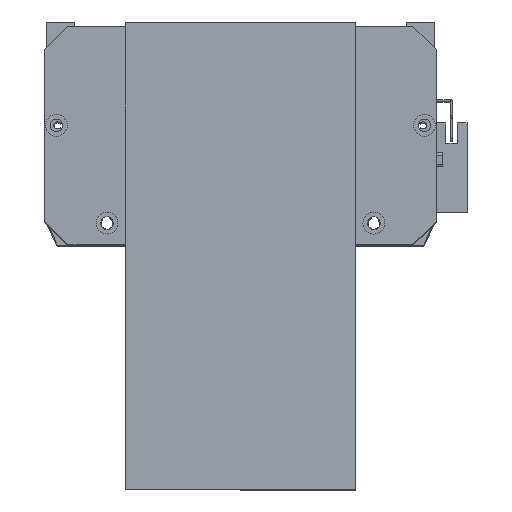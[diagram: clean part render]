
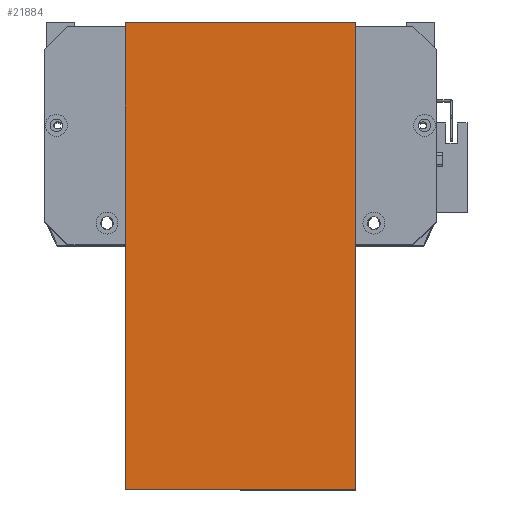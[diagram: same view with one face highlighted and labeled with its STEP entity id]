
A CAD part, top view. The second image highlights one B-rep face of the part: STEP entity #21884.
In plain terms, the highlighted planar face has unit normal (0, 0, 1) as drawn and (0, 0, -1) by its records, which use the part's own axes.
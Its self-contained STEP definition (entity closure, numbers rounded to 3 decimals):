
#528 = EDGE_CURVE ( 'NONE', #23143, #21915, #16795, .T. ) ;
#976 = AXIS2_PLACEMENT_3D ( 'NONE', #12765, #28265, #15023 ) ;
#1293 = DIRECTION ( 'NONE',  ( 0., -1., 0. ) ) ;
#2445 = CARTESIAN_POINT ( 'NONE',  ( 203., 0., 0. ) ) ;
#2782 = CARTESIAN_POINT ( 'NONE',  ( -12., 119.5, 0. ) ) ;
#3169 = EDGE_CURVE ( 'NONE', #7150, #23377, #15192, .T. ) ;
#3356 = VECTOR ( 'NONE', #18310, 1000. ) ;
#3813 = FACE_OUTER_BOUND ( 'NONE', #5510, .T. ) ;
#3911 = CARTESIAN_POINT ( 'NONE',  ( 203., 19.5, 0. ) ) ;
#4830 = DIRECTION ( 'NONE',  ( 1., 0., 0. ) ) ;
#5280 = CARTESIAN_POINT ( 'NONE',  ( 0., 19.5, 0. ) ) ;
#5510 = EDGE_LOOP ( 'NONE', ( #6932, #16130, #8411, #22463 ) ) ;
#6932 = ORIENTED_EDGE ( 'NONE', *, *, #528, .F. ) ;
#7150 = VERTEX_POINT ( 'NONE', #15984 ) ;
#7492 = CARTESIAN_POINT ( 'NONE',  ( -12., 19.5, 0. ) ) ;
#8184 = EDGE_CURVE ( 'NONE', #21915, #23377, #17185, .T. ) ;
#8243 = PLANE ( 'NONE',  #976 ) ;
#8248 = LINE ( 'NONE', #23421, #14945 ) ;
#8411 = ORIENTED_EDGE ( 'NONE', *, *, #3169, .T. ) ;
#10526 = VECTOR ( 'NONE', #18065, 1000. ) ;
#12765 = CARTESIAN_POINT ( 'NONE',  ( 0., 0., 0. ) ) ;
#14945 = VECTOR ( 'NONE', #1293, 1000. ) ;
#15023 = DIRECTION ( 'NONE',  ( -1., 0., 0. ) ) ;
#15192 = LINE ( 'NONE', #2782, #3356 ) ;
#15984 = CARTESIAN_POINT ( 'NONE',  ( 0., 119.5, 0. ) ) ;
#16130 = ORIENTED_EDGE ( 'NONE', *, *, #22393, .F. ) ;
#16795 = LINE ( 'NONE', #7492, #27847 ) ;
#17185 = LINE ( 'NONE', #2445, #10526 ) ;
#17253 = CARTESIAN_POINT ( 'NONE',  ( 203., 119.5, 0. ) ) ;
#18065 = DIRECTION ( 'NONE',  ( 0., 1., 0. ) ) ;
#18310 = DIRECTION ( 'NONE',  ( 1., 0., 0. ) ) ;
#21884 = ADVANCED_FACE ( 'NONE', ( #3813 ), #8243, .T. ) ;
#21915 = VERTEX_POINT ( 'NONE', #3911 ) ;
#22393 = EDGE_CURVE ( 'NONE', #7150, #23143, #8248, .T. ) ;
#22463 = ORIENTED_EDGE ( 'NONE', *, *, #8184, .F. ) ;
#23143 = VERTEX_POINT ( 'NONE', #5280 ) ;
#23377 = VERTEX_POINT ( 'NONE', #17253 ) ;
#23421 = CARTESIAN_POINT ( 'NONE',  ( 0., 0., 0. ) ) ;
#27847 = VECTOR ( 'NONE', #4830, 1000. ) ;
#28265 = DIRECTION ( 'NONE',  ( 0., 0., -1. ) ) ;
